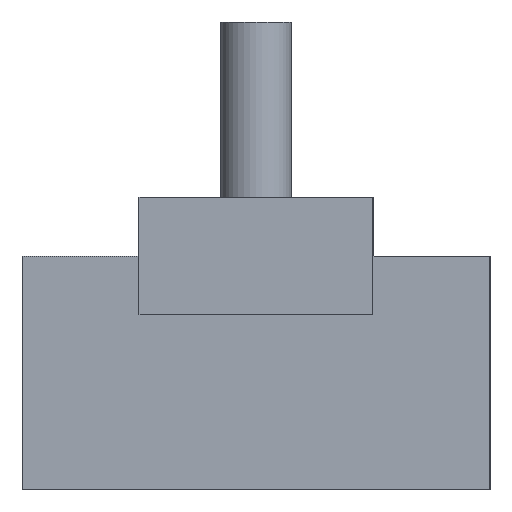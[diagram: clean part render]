
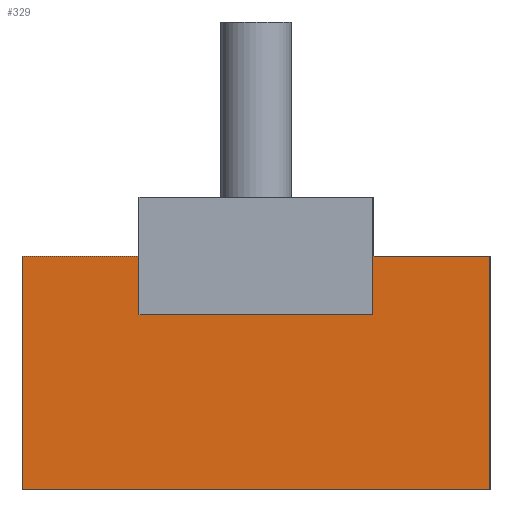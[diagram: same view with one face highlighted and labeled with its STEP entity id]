
A CAD part, left-side view. The second image highlights one B-rep face of the part: STEP entity #329.
In plain terms, the highlighted planar face has unit normal (-1, 0, 0).
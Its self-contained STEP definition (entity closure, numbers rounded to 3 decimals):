
#94 = PLANE('',#95);
#95 = AXIS2_PLACEMENT_3D('',#96,#97,#98);
#96 = CARTESIAN_POINT('',(-20.,-10.,5.));
#97 = DIRECTION('',(0.,0.,1.));
#98 = DIRECTION('',(1.,0.,0.));
#109 = EDGE_CURVE('',#110,#112,#114,.T.);
#110 = VERTEX_POINT('',#111);
#111 = CARTESIAN_POINT('',(-20.,-10.,5.));
#112 = VERTEX_POINT('',#113);
#113 = CARTESIAN_POINT('',(-20.,-5.,5.));
#114 = SURFACE_CURVE('',#115,(#119,#126),.PCURVE_S1.);
#115 = LINE('',#116,#117);
#116 = CARTESIAN_POINT('',(-20.,-10.,5.));
#117 = VECTOR('',#118,1.);
#118 = DIRECTION('',(0.,1.,0.));
#119 = PCURVE('',#94,#120);
#120 = DEFINITIONAL_REPRESENTATION('',(#121),#125);
#121 = LINE('',#122,#123);
#122 = CARTESIAN_POINT('',(0.,0.));
#123 = VECTOR('',#124,1.);
#124 = DIRECTION('',(0.,1.));
#125 = ( GEOMETRIC_REPRESENTATION_CONTEXT(2) 
PARAMETRIC_REPRESENTATION_CONTEXT() REPRESENTATION_CONTEXT('2D SPACE',''
  ) );
#126 = PCURVE('',#127,#132);
#127 = PLANE('',#128);
#128 = AXIS2_PLACEMENT_3D('',#129,#130,#131);
#129 = CARTESIAN_POINT('',(-20.,-10.,-5.));
#130 = DIRECTION('',(1.,0.,0.));
#131 = DIRECTION('',(0.,0.,1.));
#132 = DEFINITIONAL_REPRESENTATION('',(#133),#137);
#133 = LINE('',#134,#135);
#134 = CARTESIAN_POINT('',(10.,0.));
#135 = VECTOR('',#136,1.);
#136 = DIRECTION('',(0.,-1.));
#137 = ( GEOMETRIC_REPRESENTATION_CONTEXT(2) 
PARAMETRIC_REPRESENTATION_CONTEXT() REPRESENTATION_CONTEXT('2D SPACE',''
  ) );
#155 = PLANE('',#156);
#156 = AXIS2_PLACEMENT_3D('',#157,#158,#159);
#157 = CARTESIAN_POINT('',(-20.,-10.,-5.));
#158 = DIRECTION('',(0.,1.,0.));
#159 = DIRECTION('',(0.,0.,1.));
#247 = VERTEX_POINT('',#248);
#248 = CARTESIAN_POINT('',(-20.,10.,5.));
#262 = PLANE('',#263);
#263 = AXIS2_PLACEMENT_3D('',#264,#265,#266);
#264 = CARTESIAN_POINT('',(-20.,10.,-5.));
#265 = DIRECTION('',(0.,1.,0.));
#266 = DIRECTION('',(0.,0.,1.));
#274 = EDGE_CURVE('',#275,#247,#277,.T.);
#275 = VERTEX_POINT('',#276);
#276 = CARTESIAN_POINT('',(-20.,5.,5.));
#277 = SURFACE_CURVE('',#278,(#282,#289),.PCURVE_S1.);
#278 = LINE('',#279,#280);
#279 = CARTESIAN_POINT('',(-20.,-10.,5.));
#280 = VECTOR('',#281,1.);
#281 = DIRECTION('',(0.,1.,0.));
#282 = PCURVE('',#94,#283);
#283 = DEFINITIONAL_REPRESENTATION('',(#284),#288);
#284 = LINE('',#285,#286);
#285 = CARTESIAN_POINT('',(0.,0.));
#286 = VECTOR('',#287,1.);
#287 = DIRECTION('',(0.,1.));
#288 = ( GEOMETRIC_REPRESENTATION_CONTEXT(2) 
PARAMETRIC_REPRESENTATION_CONTEXT() REPRESENTATION_CONTEXT('2D SPACE',''
  ) );
#289 = PCURVE('',#127,#290);
#290 = DEFINITIONAL_REPRESENTATION('',(#291),#295);
#291 = LINE('',#292,#293);
#292 = CARTESIAN_POINT('',(10.,0.));
#293 = VECTOR('',#294,1.);
#294 = DIRECTION('',(0.,-1.));
#295 = ( GEOMETRIC_REPRESENTATION_CONTEXT(2) 
PARAMETRIC_REPRESENTATION_CONTEXT() REPRESENTATION_CONTEXT('2D SPACE',''
  ) );
#329 = ADVANCED_FACE('',(#330),#127,.F.);
#330 = FACE_BOUND('',#331,.F.);
#331 = EDGE_LOOP('',(#332,#333,#356,#384,#405,#406,#434,#462));
#332 = ORIENTED_EDGE('',*,*,#109,.F.);
#333 = ORIENTED_EDGE('',*,*,#334,.F.);
#334 = EDGE_CURVE('',#335,#110,#337,.T.);
#335 = VERTEX_POINT('',#336);
#336 = CARTESIAN_POINT('',(-20.,-10.,-5.));
#337 = SURFACE_CURVE('',#338,(#342,#349),.PCURVE_S1.);
#338 = LINE('',#339,#340);
#339 = CARTESIAN_POINT('',(-20.,-10.,-5.));
#340 = VECTOR('',#341,1.);
#341 = DIRECTION('',(0.,0.,1.));
#342 = PCURVE('',#127,#343);
#343 = DEFINITIONAL_REPRESENTATION('',(#344),#348);
#344 = LINE('',#345,#346);
#345 = CARTESIAN_POINT('',(0.,0.));
#346 = VECTOR('',#347,1.);
#347 = DIRECTION('',(1.,0.));
#348 = ( GEOMETRIC_REPRESENTATION_CONTEXT(2) 
PARAMETRIC_REPRESENTATION_CONTEXT() REPRESENTATION_CONTEXT('2D SPACE',''
  ) );
#349 = PCURVE('',#155,#350);
#350 = DEFINITIONAL_REPRESENTATION('',(#351),#355);
#351 = LINE('',#352,#353);
#352 = CARTESIAN_POINT('',(0.,0.));
#353 = VECTOR('',#354,1.);
#354 = DIRECTION('',(1.,0.));
#355 = ( GEOMETRIC_REPRESENTATION_CONTEXT(2) 
PARAMETRIC_REPRESENTATION_CONTEXT() REPRESENTATION_CONTEXT('2D SPACE',''
  ) );
#356 = ORIENTED_EDGE('',*,*,#357,.T.);
#357 = EDGE_CURVE('',#335,#358,#360,.T.);
#358 = VERTEX_POINT('',#359);
#359 = CARTESIAN_POINT('',(-20.,10.,-5.));
#360 = SURFACE_CURVE('',#361,(#365,#372),.PCURVE_S1.);
#361 = LINE('',#362,#363);
#362 = CARTESIAN_POINT('',(-20.,-10.,-5.));
#363 = VECTOR('',#364,1.);
#364 = DIRECTION('',(0.,1.,0.));
#365 = PCURVE('',#127,#366);
#366 = DEFINITIONAL_REPRESENTATION('',(#367),#371);
#367 = LINE('',#368,#369);
#368 = CARTESIAN_POINT('',(0.,0.));
#369 = VECTOR('',#370,1.);
#370 = DIRECTION('',(0.,-1.));
#371 = ( GEOMETRIC_REPRESENTATION_CONTEXT(2) 
PARAMETRIC_REPRESENTATION_CONTEXT() REPRESENTATION_CONTEXT('2D SPACE',''
  ) );
#372 = PCURVE('',#373,#378);
#373 = PLANE('',#374);
#374 = AXIS2_PLACEMENT_3D('',#375,#376,#377);
#375 = CARTESIAN_POINT('',(-20.,-10.,-5.));
#376 = DIRECTION('',(0.,0.,1.));
#377 = DIRECTION('',(1.,0.,0.));
#378 = DEFINITIONAL_REPRESENTATION('',(#379),#383);
#379 = LINE('',#380,#381);
#380 = CARTESIAN_POINT('',(0.,0.));
#381 = VECTOR('',#382,1.);
#382 = DIRECTION('',(0.,1.));
#383 = ( GEOMETRIC_REPRESENTATION_CONTEXT(2) 
PARAMETRIC_REPRESENTATION_CONTEXT() REPRESENTATION_CONTEXT('2D SPACE',''
  ) );
#384 = ORIENTED_EDGE('',*,*,#385,.T.);
#385 = EDGE_CURVE('',#358,#247,#386,.T.);
#386 = SURFACE_CURVE('',#387,(#391,#398),.PCURVE_S1.);
#387 = LINE('',#388,#389);
#388 = CARTESIAN_POINT('',(-20.,10.,-5.));
#389 = VECTOR('',#390,1.);
#390 = DIRECTION('',(0.,0.,1.));
#391 = PCURVE('',#127,#392);
#392 = DEFINITIONAL_REPRESENTATION('',(#393),#397);
#393 = LINE('',#394,#395);
#394 = CARTESIAN_POINT('',(0.,-20.));
#395 = VECTOR('',#396,1.);
#396 = DIRECTION('',(1.,0.));
#397 = ( GEOMETRIC_REPRESENTATION_CONTEXT(2) 
PARAMETRIC_REPRESENTATION_CONTEXT() REPRESENTATION_CONTEXT('2D SPACE',''
  ) );
#398 = PCURVE('',#262,#399);
#399 = DEFINITIONAL_REPRESENTATION('',(#400),#404);
#400 = LINE('',#401,#402);
#401 = CARTESIAN_POINT('',(0.,0.));
#402 = VECTOR('',#403,1.);
#403 = DIRECTION('',(1.,0.));
#404 = ( GEOMETRIC_REPRESENTATION_CONTEXT(2) 
PARAMETRIC_REPRESENTATION_CONTEXT() REPRESENTATION_CONTEXT('2D SPACE',''
  ) );
#405 = ORIENTED_EDGE('',*,*,#274,.F.);
#406 = ORIENTED_EDGE('',*,*,#407,.F.);
#407 = EDGE_CURVE('',#408,#275,#410,.T.);
#408 = VERTEX_POINT('',#409);
#409 = CARTESIAN_POINT('',(-20.,5.,2.5));
#410 = SURFACE_CURVE('',#411,(#415,#422),.PCURVE_S1.);
#411 = LINE('',#412,#413);
#412 = CARTESIAN_POINT('',(-20.,5.,2.5));
#413 = VECTOR('',#414,1.);
#414 = DIRECTION('',(0.,0.,1.));
#415 = PCURVE('',#127,#416);
#416 = DEFINITIONAL_REPRESENTATION('',(#417),#421);
#417 = LINE('',#418,#419);
#418 = CARTESIAN_POINT('',(7.5,-15.));
#419 = VECTOR('',#420,1.);
#420 = DIRECTION('',(1.,0.));
#421 = ( GEOMETRIC_REPRESENTATION_CONTEXT(2) 
PARAMETRIC_REPRESENTATION_CONTEXT() REPRESENTATION_CONTEXT('2D SPACE',''
  ) );
#422 = PCURVE('',#423,#428);
#423 = PLANE('',#424);
#424 = AXIS2_PLACEMENT_3D('',#425,#426,#427);
#425 = CARTESIAN_POINT('',(-70.,5.,2.5));
#426 = DIRECTION('',(0.,1.,0.));
#427 = DIRECTION('',(0.,0.,1.));
#428 = DEFINITIONAL_REPRESENTATION('',(#429),#433);
#429 = LINE('',#430,#431);
#430 = CARTESIAN_POINT('',(0.,50.));
#431 = VECTOR('',#432,1.);
#432 = DIRECTION('',(1.,0.));
#433 = ( GEOMETRIC_REPRESENTATION_CONTEXT(2) 
PARAMETRIC_REPRESENTATION_CONTEXT() REPRESENTATION_CONTEXT('2D SPACE',''
  ) );
#434 = ORIENTED_EDGE('',*,*,#435,.F.);
#435 = EDGE_CURVE('',#436,#408,#438,.T.);
#436 = VERTEX_POINT('',#437);
#437 = CARTESIAN_POINT('',(-20.,-5.,2.5));
#438 = SURFACE_CURVE('',#439,(#443,#450),.PCURVE_S1.);
#439 = LINE('',#440,#441);
#440 = CARTESIAN_POINT('',(-20.,-5.,2.5));
#441 = VECTOR('',#442,1.);
#442 = DIRECTION('',(0.,1.,0.));
#443 = PCURVE('',#127,#444);
#444 = DEFINITIONAL_REPRESENTATION('',(#445),#449);
#445 = LINE('',#446,#447);
#446 = CARTESIAN_POINT('',(7.5,-5.));
#447 = VECTOR('',#448,1.);
#448 = DIRECTION('',(0.,-1.));
#449 = ( GEOMETRIC_REPRESENTATION_CONTEXT(2) 
PARAMETRIC_REPRESENTATION_CONTEXT() REPRESENTATION_CONTEXT('2D SPACE',''
  ) );
#450 = PCURVE('',#451,#456);
#451 = PLANE('',#452);
#452 = AXIS2_PLACEMENT_3D('',#453,#454,#455);
#453 = CARTESIAN_POINT('',(-70.,-5.,2.5));
#454 = DIRECTION('',(0.,0.,1.));
#455 = DIRECTION('',(1.,0.,0.));
#456 = DEFINITIONAL_REPRESENTATION('',(#457),#461);
#457 = LINE('',#458,#459);
#458 = CARTESIAN_POINT('',(50.,0.));
#459 = VECTOR('',#460,1.);
#460 = DIRECTION('',(0.,1.));
#461 = ( GEOMETRIC_REPRESENTATION_CONTEXT(2) 
PARAMETRIC_REPRESENTATION_CONTEXT() REPRESENTATION_CONTEXT('2D SPACE',''
  ) );
#462 = ORIENTED_EDGE('',*,*,#463,.T.);
#463 = EDGE_CURVE('',#436,#112,#464,.T.);
#464 = SURFACE_CURVE('',#465,(#469,#476),.PCURVE_S1.);
#465 = LINE('',#466,#467);
#466 = CARTESIAN_POINT('',(-20.,-5.,2.5));
#467 = VECTOR('',#468,1.);
#468 = DIRECTION('',(0.,0.,1.));
#469 = PCURVE('',#127,#470);
#470 = DEFINITIONAL_REPRESENTATION('',(#471),#475);
#471 = LINE('',#472,#473);
#472 = CARTESIAN_POINT('',(7.5,-5.));
#473 = VECTOR('',#474,1.);
#474 = DIRECTION('',(1.,0.));
#475 = ( GEOMETRIC_REPRESENTATION_CONTEXT(2) 
PARAMETRIC_REPRESENTATION_CONTEXT() REPRESENTATION_CONTEXT('2D SPACE',''
  ) );
#476 = PCURVE('',#477,#482);
#477 = PLANE('',#478);
#478 = AXIS2_PLACEMENT_3D('',#479,#480,#481);
#479 = CARTESIAN_POINT('',(-70.,-5.,2.5));
#480 = DIRECTION('',(0.,1.,0.));
#481 = DIRECTION('',(0.,0.,1.));
#482 = DEFINITIONAL_REPRESENTATION('',(#483),#487);
#483 = LINE('',#484,#485);
#484 = CARTESIAN_POINT('',(0.,50.));
#485 = VECTOR('',#486,1.);
#486 = DIRECTION('',(1.,0.));
#487 = ( GEOMETRIC_REPRESENTATION_CONTEXT(2) 
PARAMETRIC_REPRESENTATION_CONTEXT() REPRESENTATION_CONTEXT('2D SPACE',''
  ) );
